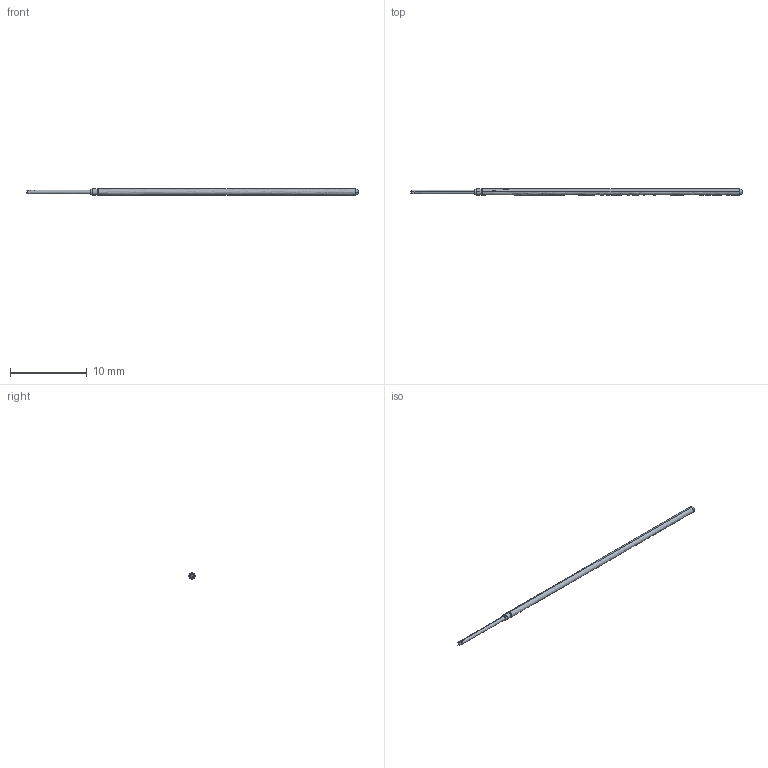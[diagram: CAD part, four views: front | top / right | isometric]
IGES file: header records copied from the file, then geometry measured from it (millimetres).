
Start section: SolidWorks IGES file using analytic representation for surfaces
Global section: file name: L:\probe solid model mockups\Solidworks models\POGO-72U.IGS; native system: SolidWorks 2006 by SolidWorks Corporation; preprocessor: SolidWorks 2006 by SolidWorks Corporation; author: Ksnyder; date: 071211.140208; units: inch
Bounding box: 43.18 x 0.79 x 0.79 mm (x, y, z)
Surface area: 182.2 mm2
Topology: 1 solids, 1 shells, 24 faces, 52 edges, 29 vertices
Faces by surface type: revolution 16, plane 8
